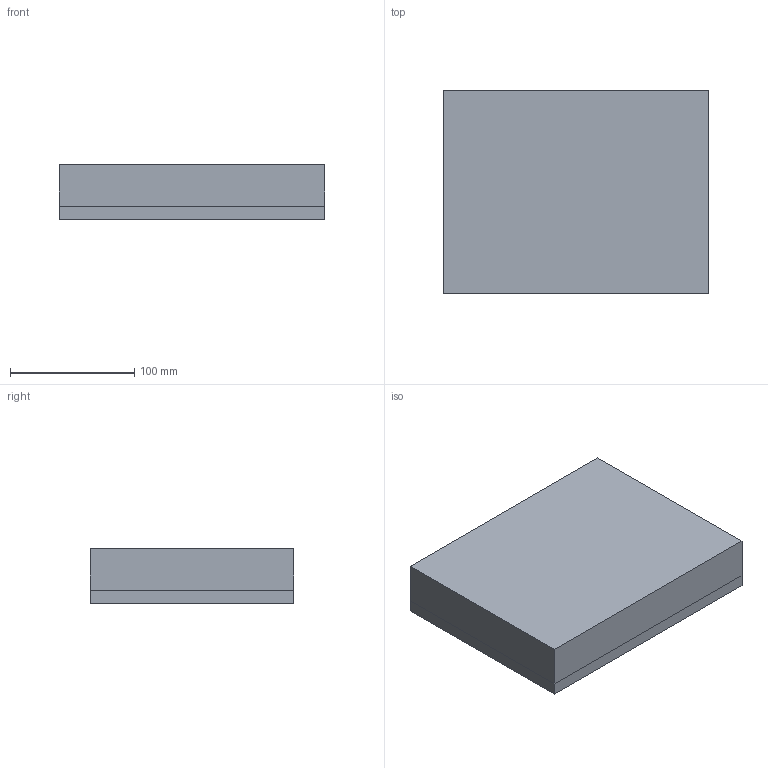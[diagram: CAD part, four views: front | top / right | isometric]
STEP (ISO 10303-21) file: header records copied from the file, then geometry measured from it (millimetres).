
FILE_DESCRIPTION(('CATIA V5 STEP Exchange'),'2;1');
FILE_NAME('C:\_Andres\UNIVERSIDAD\IQS\ASIGNATURAS\DAO\Controles\1920\c2\c2-Moslares_Fuste_Claudia.stp','2020-02-10T15:38:19+00:00',('none'),('none'),'CATIA Version 5 Release 19 SP 3 (IN-10)','CATIA V5 STEP AP203','none');
FILE_SCHEMA(('CONFIG_CONTROL_DESIGN'));
Length unit declared in the file: millimetre
Products named in the file (1): c2-Moslares_Fuste_Claudia
Bounding box: 214 x 164 x 44 mm (x, y, z)
Surface area: 259206.8 mm2
Topology: 3 solids, 3 shells, 103 faces, 232 edges, 128 vertices
Faces by surface type: cylinder 40, plane 27, bspline 24, sphere 12
Entity records: 3348 total; most frequent: CARTESIAN_POINT 1636, ORIENTED_EDGE 440, DIRECTION 224, EDGE_CURVE 164, EDGE_LOOP 110, ADVANCED_FACE 103, FACE_OUTER_BOUND 103, AXIS2_PLACEMENT_3D 96
